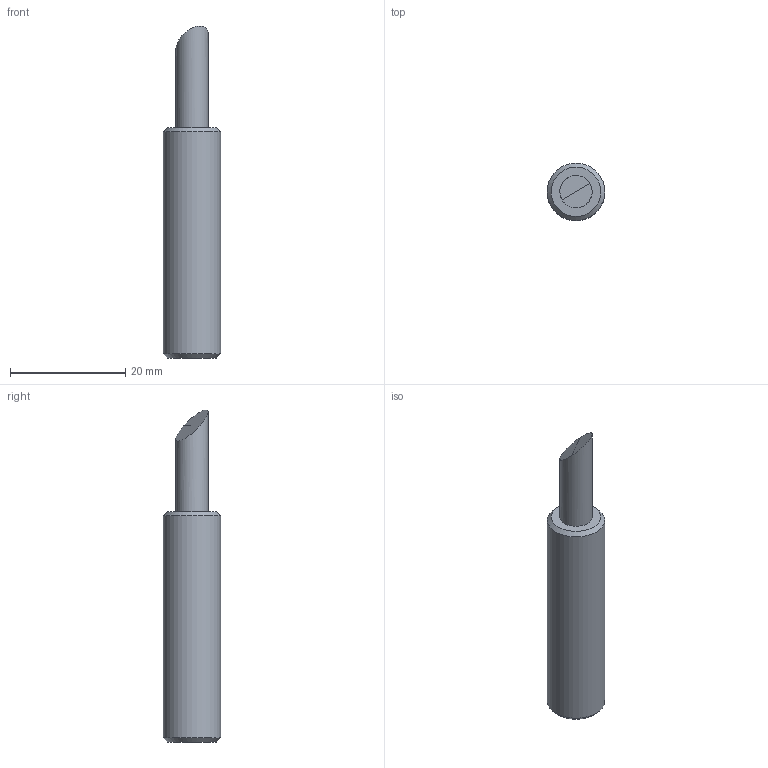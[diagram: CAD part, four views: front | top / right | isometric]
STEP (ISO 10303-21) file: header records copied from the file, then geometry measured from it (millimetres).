
FILE_DESCRIPTION((''),'2;1');
FILE_NAME('C:\Vault_local\Designs\Stock\3D pour clients\préparations\2D3D 513 A.stp','2009-08-05T14:47:34',('Georges THOLLOT ','Responsable ','Mthodes et Industrialisation',' Tl : +33 (0)4 77 53 90 27','gthollot@celduc.com'),('Celduc r e l a i s','5, rue Ampre, BP 30004','42290 SORBIERS - France','Fax. : +33 (0)4 77 53 85 51','N siret 353 310 519 00015','ISO 9001 N QUAL/1993/1106b','www.celduc.com'),'Autodesk Inventor 2009','Autodesk Inventor 2009','');
FILE_SCHEMA(('AUTOMOTIVE_DESIGN { 1 0 10303 214 1 1 1 1 }'));
Length unit declared in the file: millimetre
Products named in the file (1): PTABC1 M10 L40
Bounding box: 10 x 10 x 57.71 mm (x, y, z)
Volume: 3496.4 mm3; surface area: 1660.2 mm2
Topology: 1 solids, 1 shells, 8 faces, 13 edges, 8 vertices
Faces by surface type: plane 4, cone 2, cylinder 2
Full cylindrical faces by diameter (mm): 5.6 x1, 10 x1
Entity records: 197 total; most frequent: DIRECTION 33, CARTESIAN_POINT 24, AXIS2_PLACEMENT_3D 16, ORIENTED_EDGE 16, EDGE_LOOP 13, EDGE_CURVE 8, FACE_OUTER_BOUND 8, ADVANCED_FACE 8
